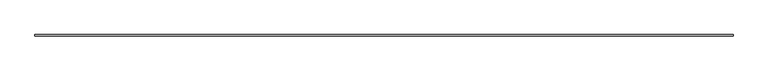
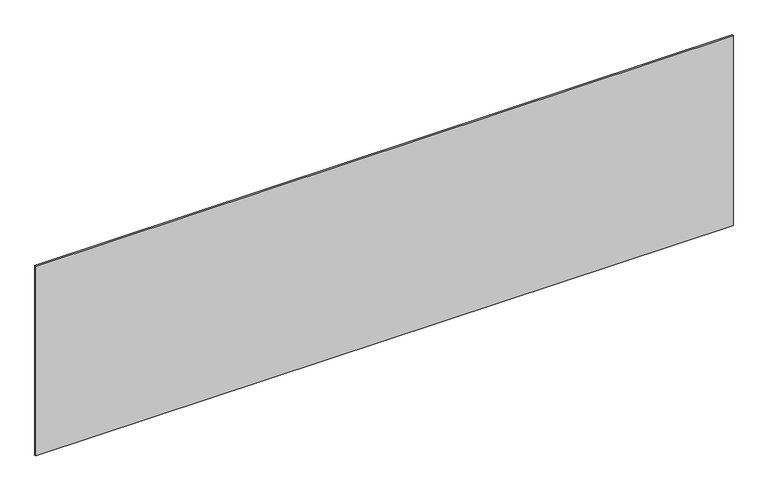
"""IFC4 building model written with IfcOpenShell, lengths in millimetres: plate geometry, システム パネル : 標準."""

import ifcopenshell
import ifcopenshell.guid

model = None  # the IFC model being written
_history = None  # IfcOwnerHistory: only IFC2X3 demands one
_inside = {}  # id of a spatial element -> (the spatial element, [elements in it])
_under = {}  # id of a project, library or spatial element -> (it, [spatial elements below it])
_declared = {}  # id of a project -> (the project, [libraries it declares])
_typed = {}  # id of a type object -> (the type object, [elements of that type])
_made_of = {}  # id of a material, layer set ... -> (it, [elements and type objects made of it])


def new_model(schema):
    """Start an empty IFC model of exactly this schema.

    Asked for "IFC4X3", IfcOpenShell would pick the latest addendum, in which some entities
    have other attributes; the version numbers below select the first issue.
    IFC2X3 requires an IfcOwnerHistory on every rooted entity: one is made here for all.
    """
    global model, _history
    if schema == "IFC4X3":
        model = ifcopenshell.file(schema_version=(4, 3, 0, 0))
    else:
        model = ifcopenshell.file(schema=schema)
    _inside.clear()
    _under.clear()
    _declared.clear()
    _typed.clear()
    _made_of.clear()
    _history = None
    if model.schema == "IFC2X3":
        org = make("IfcOrganization", Name="unknown")
        user = make(
            "IfcPersonAndOrganization",
            ThePerson=make("IfcPerson", FamilyName="unknown"),
            TheOrganization=org,
        )
        app = make(
            "IfcApplication",
            ApplicationDeveloper=org,
            Version="unknown",
            ApplicationFullName="unknown",
            ApplicationIdentifier="unknown",
        )
        _history = make(
            "IfcOwnerHistory",
            OwningUser=user,
            OwningApplication=app,
            ChangeAction="ADDED",
            CreationDate=0,
        )
    return model


def make(cls, **values):
    """One entity of the class cls with the attributes given. An attribute that is None is left unset."""
    return model.create_entity(
        cls, **{name: value for name, value in values.items() if value is not None}
    )


def rooted(cls, **values):
    """An entity with a GlobalId (a new one), such as an element, a storey or a relation."""
    return make(cls, GlobalId=ifcopenshell.guid.new(), OwnerHistory=_history, **values)


def si_unit(unit_type, name, prefix=None):
    """IfcSIUnit, for example si_unit("LENGTHUNIT", "METRE", prefix="MILLI")."""
    return make("IfcSIUnit", UnitType=unit_type, Prefix=prefix, Name=name)


def assignment(units):
    """IfcUnitAssignment: the units of a project."""
    return None if units is None else make("IfcUnitAssignment", Units=units)


def point(xyz):
    """IfcCartesianPoint."""
    return None if xyz is None else make("IfcCartesianPoint", Coordinates=xyz)


def direction(xyz):
    """IfcDirection."""
    return None if xyz is None else make("IfcDirection", DirectionRatios=xyz)


def frame(location, z_axis=None, x_axis=None):
    """IfcAxis2Placement3D, a coordinate frame: its origin and axes. An axis left out is left unset."""
    return make(
        "IfcAxis2Placement3D",
        Location=point(location),
        Axis=direction(z_axis),
        RefDirection=direction(x_axis),
    )


def origin():
    """The frame at (0, 0, 0) with its axes left unset."""
    return frame((0.0, 0.0, 0.0))


def origin_with_axes():
    """The frame at (0, 0, 0) with the z axis (0, 0, 1) and the x axis (1, 0, 0) written out."""
    return frame((0.0, 0.0, 0.0), z_axis=(0.0, 0.0, 1.0), x_axis=(1.0, 0.0, 0.0))


def place(relative_to, where):
    """IfcLocalPlacement: puts the frame where relative to a parent placement (None: the world)."""
    return make(
        "IfcLocalPlacement", PlacementRelTo=relative_to, RelativePlacement=where
    )


def context(
    kind, dimensions, precision=None, world=None, true_north=None, identifier=None
):
    """IfcGeometricRepresentationContext, for example the 3D "Model" context."""
    return make(
        "IfcGeometricRepresentationContext",
        ContextIdentifier=identifier,
        ContextType=kind,
        CoordinateSpaceDimension=dimensions,
        Precision=precision,
        WorldCoordinateSystem=world,
        TrueNorth=true_north,
    )


def project(units=None, contexts=None):
    """IfcProject with its units and contexts."""
    return rooted(
        "IfcProject",
        Name="project",
        RepresentationContexts=contexts,
        UnitsInContext=assignment(units),
    )


def spatial(cls, under=None, at=None, **own):
    """A site, building, storey or space (cls), placed at a placement, below another one or the project."""
    s = rooted(cls, ObjectPlacement=at, **own)
    if under is not None:
        _under.setdefault(under.id(), (under, []))[1].append(s)
    return s


def polyline(points):
    """IfcPolyline through the points."""
    return make("IfcPolyline", Points=[point(p) for p in points])


def outline(outer, holes=None, kind="AREA"):
    """IfcArbitraryClosedProfileDef: a profile drawn as a closed curve; with holes, ...WithVoids."""
    if holes is None:
        return make("IfcArbitraryClosedProfileDef", ProfileType=kind, OuterCurve=outer)
    return make(
        "IfcArbitraryProfileDefWithVoids",
        ProfileType=kind,
        OuterCurve=outer,
        InnerCurves=holes,
    )


def extrude(swept, where, along, depth):
    """IfcExtrudedAreaSolid: the profile swept, set in the frame where, extruded along a direction by depth."""
    return make(
        "IfcExtrudedAreaSolid",
        SweptArea=swept,
        Position=where,
        ExtrudedDirection=direction(along),
        Depth=depth,
    )


def shape(context_of_items, identifier, shape_type, items):
    """IfcShapeRepresentation: the items that make up one representation, for example the "Body"."""
    return make(
        "IfcShapeRepresentation",
        ContextOfItems=context_of_items,
        RepresentationIdentifier=identifier,
        RepresentationType=shape_type,
        Items=items,
    )


def source(mapping_origin, context_of_items, identifier, shape_type, items):
    """IfcRepresentationMap: a shape defined once, which mapped items show again and again."""
    return make(
        "IfcRepresentationMap",
        MappingOrigin=mapping_origin,
        MappedRepresentation=shape(context_of_items, identifier, shape_type, items),
    )


def transform(
    local_origin,
    x_axis=None,
    y_axis=None,
    z_axis=None,
    scale=None,
    scale2=None,
    scale3=None,
    uniform=True,
):
    """IfcCartesianTransformationOperator3D, or its non-uniform kind. x_axis, y_axis, z_axis: its Axis1, 2, 3."""
    if uniform:
        return make(
            "IfcCartesianTransformationOperator3D",
            Axis1=direction(x_axis),
            Axis2=direction(y_axis),
            LocalOrigin=point(local_origin),
            Scale=scale,
            Axis3=direction(z_axis),
        )
    return make(
        "IfcCartesianTransformationOperator3DnonUniform",
        Axis1=direction(x_axis),
        Axis2=direction(y_axis),
        LocalOrigin=point(local_origin),
        Scale=scale,
        Axis3=direction(z_axis),
        Scale2=scale2,
        Scale3=scale3,
    )


def mapped(mapping_source, mapping_target):
    """IfcMappedItem: shows the shape of a source again, moved by a transform."""
    return make(
        "IfcMappedItem", MappingSource=mapping_source, MappingTarget=mapping_target
    )


def made_of(thing, what):
    """Note that an element or type object is made of a material, layer set ...; save() writes the relation."""
    if what is not None:
        _made_of.setdefault(what.id(), (what, []))[1].append(thing)
    return thing


def element(
    cls,
    number,
    at=None,
    inside=None,
    cuts=None,
    type_object=None,
    material=None,
    context=None,
    identifier="Body",
    shape_type=None,
    held_by="IfcProductDefinitionShape",
    body=None,
    shapes=None,
    **own,
):
    """One element of the class cls, such as IfcWall. Its Tag is "e" and its number.

    at: its placement. inside: the storey or other place that contains it. cuts: it is an
    opening in that element (IfcRelVoidsElement). A single representation is given by context,
    identifier, shape_type and body (its items); several are given by shapes. held_by: the class
    of the entity that holds the representations. save() writes the other relations.
    """
    e = rooted(cls, Tag="e%d" % number, ObjectPlacement=at, **own)
    if body is not None:
        shapes = [shape(context, identifier, shape_type, body)]
    if shapes is not None:
        e.Representation = make(held_by, Representations=shapes)
    if inside is not None:
        _inside.setdefault(inside.id(), (inside, []))[1].append(e)
    if cuts is not None:
        rooted(
            "IfcRelVoidsElement", RelatingBuildingElement=cuts, RelatedOpeningElement=e
        )
    if type_object is not None:
        _typed.setdefault(type_object.id(), (type_object, []))[1].append(e)
    return made_of(e, material)


def aggregate(whole, parts):
    """IfcRelAggregates: a whole, such as a stair, and the parts it consists of."""
    return rooted("IfcRelAggregates", RelatingObject=whole, RelatedObjects=parts)


def save(model, path):
    """Write the relations noted so far, then the file.

    IfcRelAggregates (storeys below a building ...), IfcRelContainedInSpatialStructure (elements
    in a storey), IfcRelDefinesByType, IfcRelAssociatesMaterial and IfcRelDeclares: one each for
    every whole, place, type object, material and project.
    """
    for whole, parts in _under.values():
        aggregate(whole, parts)
    for where, things in _inside.values():
        rooted(
            "IfcRelContainedInSpatialStructure",
            RelatedElements=things,
            RelatingStructure=where,
        )
    for kind, things in _typed.values():
        rooted("IfcRelDefinesByType", RelatedObjects=things, RelatingType=kind)
    for what, things in _made_of.values():
        rooted("IfcRelAssociatesMaterial", RelatedObjects=things, RelatingMaterial=what)
    for by, libraries in _declared.values():
        rooted("IfcRelDeclares", RelatingContext=by, RelatedDefinitions=libraries)
    model.write(path)


def plate_060ded80(model_context):
    return source(origin(), model_context, "Body", "SweptSolid", [
        extrude(outline(polyline([(2264.1666667, -5.0), (-2264.1666667, -5.0), (-2264.1666667, 5.0), (2264.1666667, 5.0), (2264.1666667, -5.0)])), origin_with_axes(), (0.0, 0.0, 1.0), 1302.8439899),
    ])


if __name__ == "__main__":
    model = new_model("IFC4")
    model_context = context("Model", 3, world=origin())
    ifc_project = project(units=[si_unit("LENGTHUNIT", "METRE", prefix="MILLI")], contexts=[model_context])
    site = spatial("IfcSite", under=ifc_project)
    building = spatial("IfcBuilding", under=site)
    placement = place(None, origin())
    plate_shape = plate_060ded80(model_context)
    element("IfcPlate", 1, ObjectType="システム パネル : 標準", at=placement, inside=building, context=model_context, shape_type="MappedRepresentation", body=[
        mapped(plate_shape, transform((0.0, 0.0, 0.0), x_axis=(1.0, 0.0, 0.0), y_axis=(0.0, 1.0, 0.0), z_axis=(0.0, 0.0, 1.0))),
    ])
    save(model, "model.ifc")
